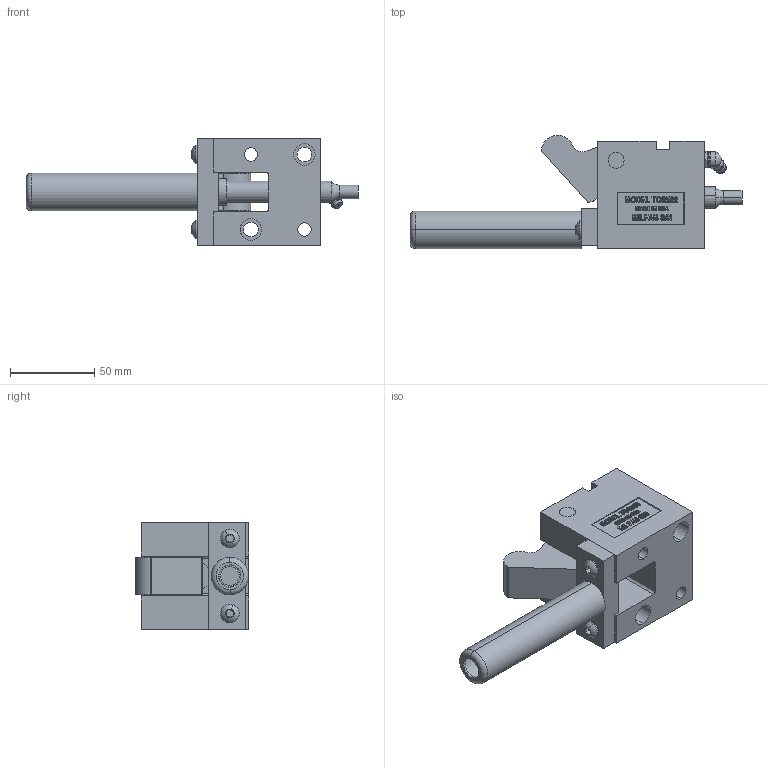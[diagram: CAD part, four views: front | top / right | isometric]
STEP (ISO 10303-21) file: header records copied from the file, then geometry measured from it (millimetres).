
FILE_DESCRIPTION (( 'STEP AP214' ), '1' );
FILE_NAME ('TOS50045-O.STEP', '2014-01-05T21:50:35', ( 'user' ), ( '' ), 'SwSTEP 2.0', 'SolidWorks 2009', '' );
FILE_SCHEMA (( 'AUTOMOTIVE_DESIGN' ));
Length unit declared in the file: inch
Products named in the file (10): GREASE ZERK; 500-O-STRAP; 1-4 SCREW; 500-OFFSET TRIGGER; OS500-CAGE; TOS500-BODY; TOS50045-O; OS500-PUNCH; O-500-POINT; 500 PIVOT PIN
Assembly tree (10 placements, depth 2):
  TOS50045-O
    500-O-STRAP
    1-4 SCREW  x2
    OS500-CAGE
    O-500-POINT
    TOS500-BODY
    500-OFFSET TRIGGER
    GREASE ZERK
    500 PIVOT PIN
    OS500-PUNCH
Bounding box: 196.72 x 67.08 x 63.5 mm (x, y, z)
Volume: 242354.4 mm3; surface area: 69347.8 mm2
Topology: 10 solids, 10 shells, 581 faces, 1499 edges, 986 vertices
Faces by surface type: plane 334, bspline 109, cylinder 86, cone 26, torus 22, sphere 4
Entity records: 24021 total; most frequent: CARTESIAN_POINT 10581, ORIENTED_EDGE 2910, DIRECTION 2293, EDGE_CURVE 1455, VERTEX_POINT 960, LINE 943, VECTOR 943, AXIS2_PLACEMENT_3D 675
